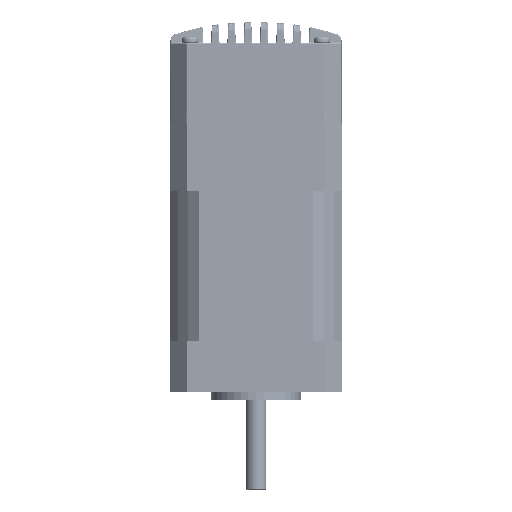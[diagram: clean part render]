
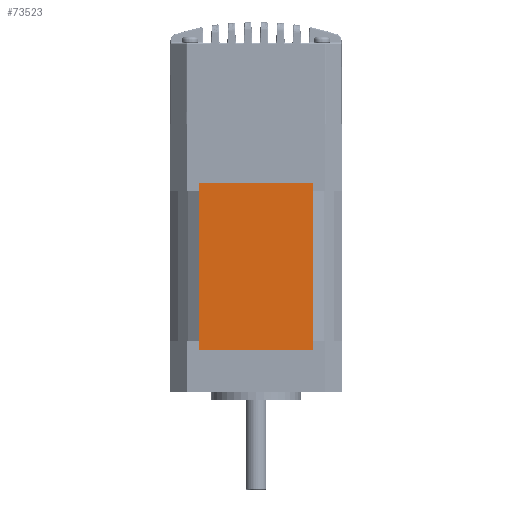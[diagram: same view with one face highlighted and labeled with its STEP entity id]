
A CAD part, front view. The second image highlights one B-rep face of the part: STEP entity #73523.
In plain terms, the highlighted planar face has unit normal (0, -1, 0).
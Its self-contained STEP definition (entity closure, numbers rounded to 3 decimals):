
#6675 = LINE ( 'NONE', #151257, #31513 ) ;
#12718 = CARTESIAN_POINT ( 'NONE',  ( -14., -21., 41. ) ) ;
#20137 = VECTOR ( 'NONE', #149819, 1000. ) ;
#21144 = LINE ( 'NONE', #62370, #82328 ) ;
#25184 = ORIENTED_EDGE ( 'NONE', *, *, #56299, .F. ) ;
#28898 = PLANE ( 'NONE',  #108337 ) ;
#29428 = DIRECTION ( 'NONE',  ( 0., 0., 1. ) ) ;
#31513 = VECTOR ( 'NONE', #29428, 1000. ) ;
#39849 = CARTESIAN_POINT ( 'NONE',  ( 14., -21., 27. ) ) ;
#44356 = LINE ( 'NONE', #114912, #97813 ) ;
#45298 = CARTESIAN_POINT ( 'NONE',  ( 14., -21., 0. ) ) ;
#48385 = EDGE_CURVE ( 'NONE', #49088, #62196, #6675, .T. ) ;
#49088 = VERTEX_POINT ( 'NONE', #156965 ) ;
#52747 = LINE ( 'NONE', #39849, #20137 ) ;
#53170 = ORIENTED_EDGE ( 'NONE', *, *, #154287, .F. ) ;
#53572 = DIRECTION ( 'NONE',  ( 0., 1., 0. ) ) ;
#56299 = EDGE_CURVE ( 'NONE', #125279, #134282, #52747, .T. ) ;
#62196 = VERTEX_POINT ( 'NONE', #12718 ) ;
#62370 = CARTESIAN_POINT ( 'NONE',  ( 0., -21., 0. ) ) ;
#63299 = EDGE_CURVE ( 'NONE', #62196, #125279, #44356, .T. ) ;
#65761 = DIRECTION ( 'NONE',  ( 1., 0., 0. ) ) ;
#67013 = ORIENTED_EDGE ( 'NONE', *, *, #48385, .F. ) ;
#73523 = ADVANCED_FACE ( 'NONE', ( #106467 ), #28898, .F. ) ;
#82328 = VECTOR ( 'NONE', #147758, 1000. ) ;
#95973 = EDGE_LOOP ( 'NONE', ( #25184, #127919, #67013, #53170 ) ) ;
#97813 = VECTOR ( 'NONE', #65761, 1000. ) ;
#103626 = CARTESIAN_POINT ( 'NONE',  ( 14., -21., 41. ) ) ;
#106467 = FACE_OUTER_BOUND ( 'NONE', #95973, .T. ) ;
#108337 = AXIS2_PLACEMENT_3D ( 'NONE', #126212, #53572, #138927 ) ;
#114912 = CARTESIAN_POINT ( 'NONE',  ( -14., -21., 41. ) ) ;
#125279 = VERTEX_POINT ( 'NONE', #103626 ) ;
#126212 = CARTESIAN_POINT ( 'NONE',  ( 0., -21., 27. ) ) ;
#127919 = ORIENTED_EDGE ( 'NONE', *, *, #63299, .F. ) ;
#134282 = VERTEX_POINT ( 'NONE', #45298 ) ;
#138927 = DIRECTION ( 'NONE',  ( 0., 0., 1. ) ) ;
#147758 = DIRECTION ( 'NONE',  ( -1., 0., 0. ) ) ;
#149819 = DIRECTION ( 'NONE',  ( 0., 0., -1. ) ) ;
#151257 = CARTESIAN_POINT ( 'NONE',  ( -14., -21., 27. ) ) ;
#154287 = EDGE_CURVE ( 'NONE', #134282, #49088, #21144, .T. ) ;
#156965 = CARTESIAN_POINT ( 'NONE',  ( -14., -21., 0. ) ) ;
